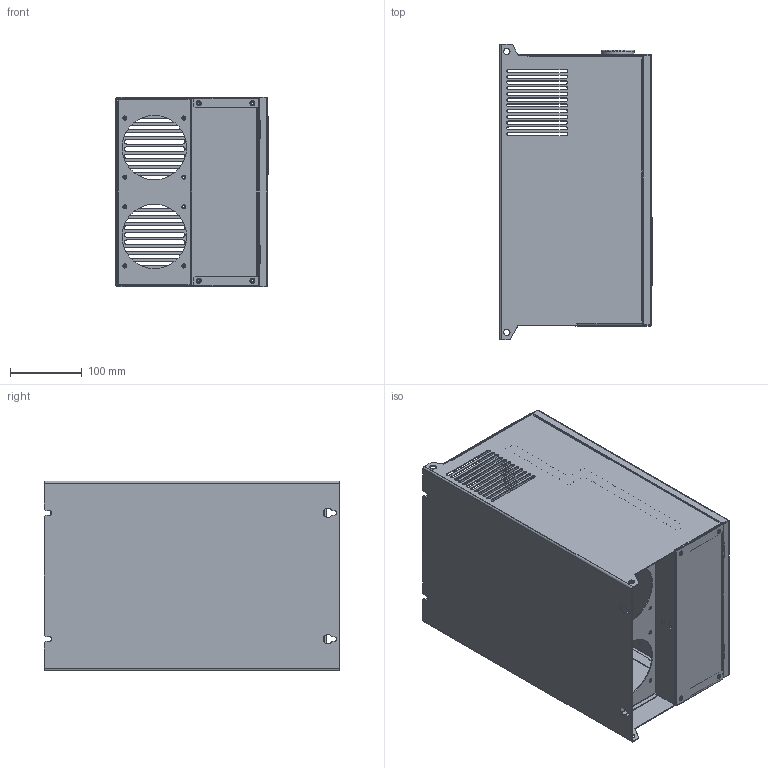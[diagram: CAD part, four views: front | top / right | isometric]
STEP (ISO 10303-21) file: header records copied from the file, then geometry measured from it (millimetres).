
FILE_DESCRIPTION((''),'2;1');
FILE_NAME('CL2-4T15-22G-240112_ASM','2024-06-17T16:46:33',('HuangFD'),(''),'CREO PARAMETRIC BY PTC INC, 2019010','CREO PARAMETRIC BY PTC INC, 2019010','');
FILE_SCHEMA(('CONFIG_CONTROL_DESIGN','GEOMETRIC_VALIDATION_PROPERTIES_MIM'));
Products named in the file (14): ZHUTI; HANJIAN1; HANJIAN22; ZHUTIJIAN_ASM; SHANGGEBAN; FENGSANDANGBAN; _202012080001; 3100-CAOZUOQISHANGKE_1; 3100-CAOZUOQIXIAKE_1; 3100-CAOZUOQI-OLD_ASM; CEBAN; SHANGGAI; SUJIAODUTUO; CL2-4T15-22G-240112_ASM
Assembly tree (14 placements, depth 3):
  CL2-4T15-22G-240112_ASM
    ZHUTIJIAN_ASM
      ZHUTI
      HANJIAN1
      HANJIAN22
    SHANGGEBAN
    FENGSANDANGBAN
    _202012080001
    3100-CAOZUOQI-OLD_ASM
      3100-CAOZUOQISHANGKE_1
      3100-CAOZUOQIXIAKE_1
    CEBAN
    SHANGGAI
    SUJIAODUTUO  x2
Bounding box: 213.2 x 412 x 265 mm (x, y, z)
Volume: 832348.6 mm3; surface area: 1213651.2 mm2
Topology: 44 solids, 44 shells, 4666 faces, 13004 edges, 8549 vertices
Faces by surface type: plane 3625, cylinder 848, cone 94, torus 71, bspline 16, extrusion 12
Entity records: 158337 total; most frequent: CARTESIAN_POINT 27861, ORIENTED_EDGE 25712, DIRECTION 24010, EDGE_CURVE 12856, VECTOR 10550, LINE 10538, VERTEX_POINT 8445, AXIS2_PLACEMENT_3D 6730
